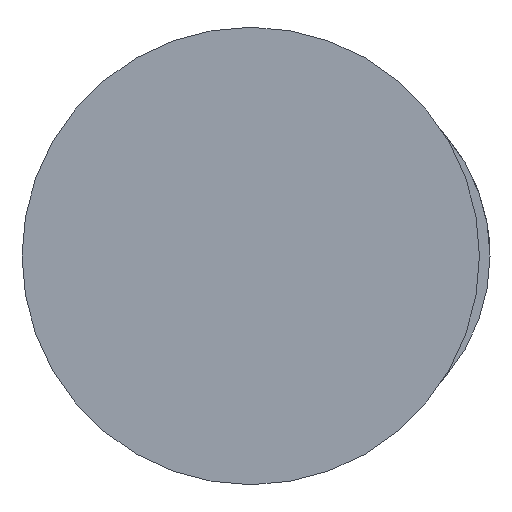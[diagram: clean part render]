
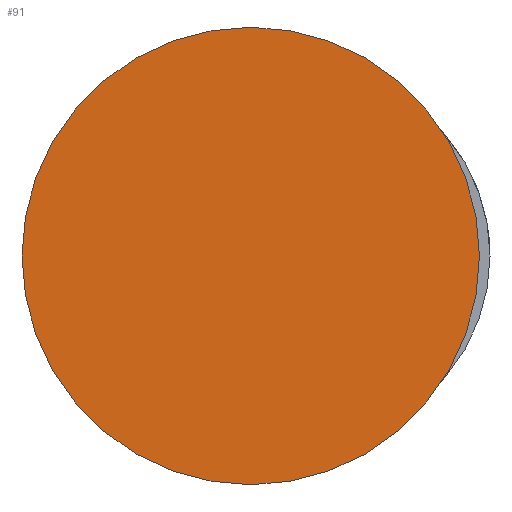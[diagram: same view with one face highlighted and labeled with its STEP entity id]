
A CAD part, left-side view. The second image highlights one B-rep face of the part: STEP entity #91.
In plain terms, the highlighted planar face has unit normal (-1, 0, 0).
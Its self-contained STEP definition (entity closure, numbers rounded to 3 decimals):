
#52=CARTESIAN_POINT('Axis2P3D Location',(0.,0.,0.)) ;
#57=CARTESIAN_POINT('Axis2P3D Location',(0.,0.,0.)) ;
#61=CARTESIAN_POINT('Vertex',(0.,0.,-32.5)) ;
#63=CARTESIAN_POINT('Vertex',(0.,32.5,0.)) ;
#66=CARTESIAN_POINT('Axis2P3D Location',(0.,0.,0.)) ;
#70=CARTESIAN_POINT('Vertex',(0.,-32.5,0.)) ;
#73=CARTESIAN_POINT('Axis2P3D Location',(0.,0.,0.)) ;
#77=CARTESIAN_POINT('Vertex',(0.,0.,32.5)) ;
#80=CARTESIAN_POINT('Axis2P3D Location',(0.,0.,0.)) ;
#53=DIRECTION('Axis2P3D Direction',(1.,0.,-0.)) ;
#54=DIRECTION('Axis2P3D XDirection',(-0.,0.,-1.)) ;
#58=DIRECTION('Axis2P3D Direction',(1.,0.,-0.)) ;
#67=DIRECTION('Axis2P3D Direction',(1.,0.,-0.)) ;
#74=DIRECTION('Axis2P3D Direction',(1.,0.,-0.)) ;
#81=DIRECTION('Axis2P3D Direction',(1.,0.,-0.)) ;
#55=AXIS2_PLACEMENT_3D('Plane Axis2P3D',#52,#53,#54) ;
#59=AXIS2_PLACEMENT_3D('Circle Axis2P3D',#57,#58,$) ;
#68=AXIS2_PLACEMENT_3D('Circle Axis2P3D',#66,#67,$) ;
#75=AXIS2_PLACEMENT_3D('Circle Axis2P3D',#73,#74,$) ;
#82=AXIS2_PLACEMENT_3D('Circle Axis2P3D',#80,#81,$) ;
#86=ORIENTED_EDGE('',*,*,#65,.F.) ;
#87=ORIENTED_EDGE('',*,*,#72,.F.) ;
#88=ORIENTED_EDGE('',*,*,#79,.F.) ;
#89=ORIENTED_EDGE('',*,*,#84,.F.) ;
#91=ADVANCED_FACE('395PSF-4',(#90),#56,.F.) ;
#60=CIRCLE('generated circle',#59,32.5) ;
#69=CIRCLE('generated circle',#68,32.5) ;
#76=CIRCLE('generated circle',#75,32.5) ;
#83=CIRCLE('generated circle',#82,32.5) ;
#65=EDGE_CURVE('',#62,#64,#60,.T.) ;
#72=EDGE_CURVE('',#71,#62,#69,.T.) ;
#79=EDGE_CURVE('',#78,#71,#76,.T.) ;
#84=EDGE_CURVE('',#64,#78,#83,.T.) ;
#85=EDGE_LOOP('',(#86,#87,#88,#89)) ;
#90=FACE_OUTER_BOUND('',#85,.T.) ;
#56=PLANE('Plane',#55) ;
#62=VERTEX_POINT('',#61) ;
#64=VERTEX_POINT('',#63) ;
#71=VERTEX_POINT('',#70) ;
#78=VERTEX_POINT('',#77) ;
